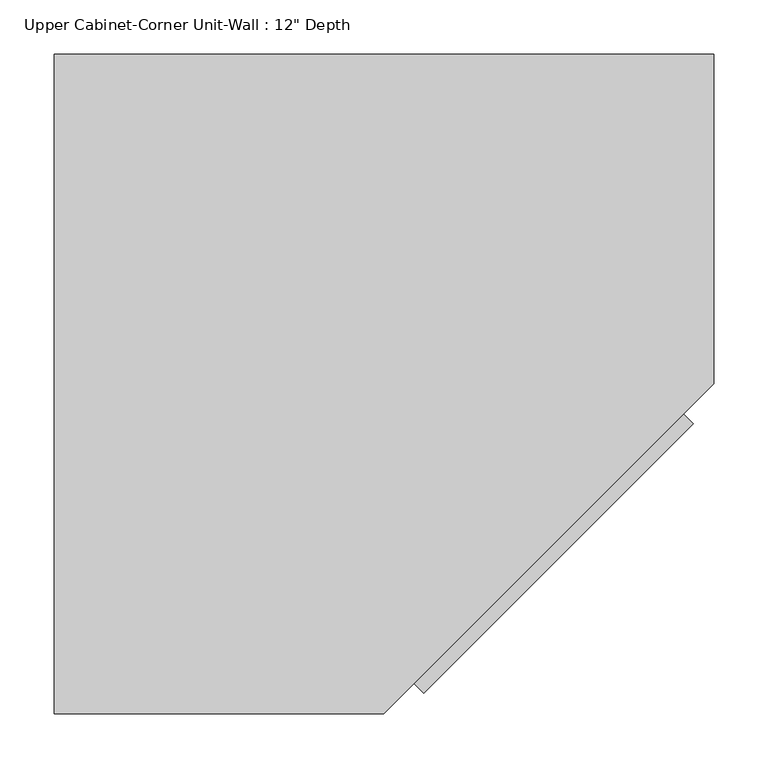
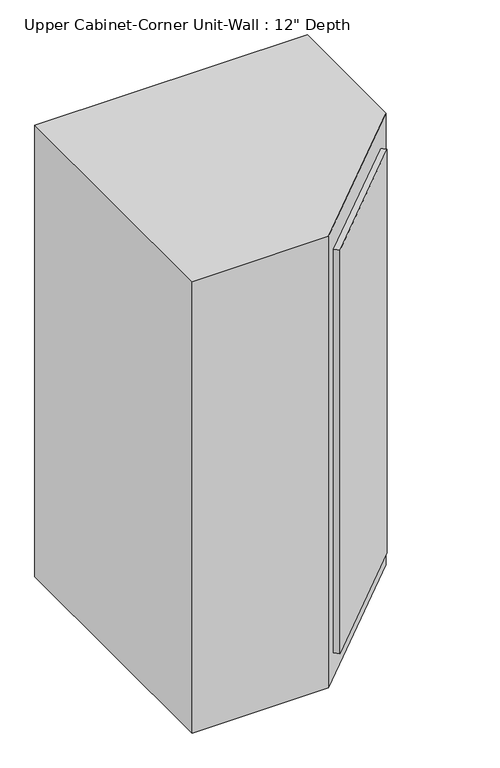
"""IFC4 building model written with IfcOpenShell, lengths in millimetres: furniture geometry."""

import ifcopenshell
import ifcopenshell.guid

model = None  # the IFC model being written
_history = None  # IfcOwnerHistory: only IFC2X3 demands one
_inside = {}  # id of a spatial element -> (the spatial element, [elements in it])
_under = {}  # id of a project, library or spatial element -> (it, [spatial elements below it])
_declared = {}  # id of a project -> (the project, [libraries it declares])
_typed = {}  # id of a type object -> (the type object, [elements of that type])
_made_of = {}  # id of a material, layer set ... -> (it, [elements and type objects made of it])


def new_model(schema):
    """Start an empty IFC model of exactly this schema.

    Asked for "IFC4X3", IfcOpenShell would pick the latest addendum, in which some entities
    have other attributes; the version numbers below select the first issue.
    IFC2X3 requires an IfcOwnerHistory on every rooted entity: one is made here for all.
    """
    global model, _history
    if schema == "IFC4X3":
        model = ifcopenshell.file(schema_version=(4, 3, 0, 0))
    else:
        model = ifcopenshell.file(schema=schema)
    _inside.clear()
    _under.clear()
    _declared.clear()
    _typed.clear()
    _made_of.clear()
    _history = None
    if model.schema == "IFC2X3":
        org = make("IfcOrganization", Name="unknown")
        user = make(
            "IfcPersonAndOrganization",
            ThePerson=make("IfcPerson", FamilyName="unknown"),
            TheOrganization=org,
        )
        app = make(
            "IfcApplication",
            ApplicationDeveloper=org,
            Version="unknown",
            ApplicationFullName="unknown",
            ApplicationIdentifier="unknown",
        )
        _history = make(
            "IfcOwnerHistory",
            OwningUser=user,
            OwningApplication=app,
            ChangeAction="ADDED",
            CreationDate=0,
        )
    return model


def make(cls, **values):
    """One entity of the class cls with the attributes given. An attribute that is None is left unset."""
    return model.create_entity(
        cls, **{name: value for name, value in values.items() if value is not None}
    )


def rooted(cls, **values):
    """An entity with a GlobalId (a new one), such as an element, a storey or a relation."""
    return make(cls, GlobalId=ifcopenshell.guid.new(), OwnerHistory=_history, **values)


def si_unit(unit_type, name, prefix=None):
    """IfcSIUnit, for example si_unit("LENGTHUNIT", "METRE", prefix="MILLI")."""
    return make("IfcSIUnit", UnitType=unit_type, Prefix=prefix, Name=name)


def assignment(units):
    """IfcUnitAssignment: the units of a project."""
    return None if units is None else make("IfcUnitAssignment", Units=units)


def point(xyz):
    """IfcCartesianPoint."""
    return None if xyz is None else make("IfcCartesianPoint", Coordinates=xyz)


def direction(xyz):
    """IfcDirection."""
    return None if xyz is None else make("IfcDirection", DirectionRatios=xyz)


def frame(location, z_axis=None, x_axis=None):
    """IfcAxis2Placement3D, a coordinate frame: its origin and axes. An axis left out is left unset."""
    return make(
        "IfcAxis2Placement3D",
        Location=point(location),
        Axis=direction(z_axis),
        RefDirection=direction(x_axis),
    )


def origin():
    """The frame at (0, 0, 0) with its axes left unset."""
    return frame((0.0, 0.0, 0.0))


def place(relative_to, where):
    """IfcLocalPlacement: puts the frame where relative to a parent placement (None: the world)."""
    return make(
        "IfcLocalPlacement", PlacementRelTo=relative_to, RelativePlacement=where
    )


def context(
    kind, dimensions, precision=None, world=None, true_north=None, identifier=None
):
    """IfcGeometricRepresentationContext, for example the 3D "Model" context."""
    return make(
        "IfcGeometricRepresentationContext",
        ContextIdentifier=identifier,
        ContextType=kind,
        CoordinateSpaceDimension=dimensions,
        Precision=precision,
        WorldCoordinateSystem=world,
        TrueNorth=true_north,
    )


def project(units=None, contexts=None):
    """IfcProject with its units and contexts."""
    return rooted(
        "IfcProject",
        Name="project",
        RepresentationContexts=contexts,
        UnitsInContext=assignment(units),
    )


def spatial(cls, under=None, at=None, **own):
    """A site, building, storey or space (cls), placed at a placement, below another one or the project."""
    s = rooted(cls, ObjectPlacement=at, **own)
    if under is not None:
        _under.setdefault(under.id(), (under, []))[1].append(s)
    return s


def polyline(points):
    """IfcPolyline through the points."""
    return make("IfcPolyline", Points=[point(p) for p in points])


def outline(outer, holes=None, kind="AREA"):
    """IfcArbitraryClosedProfileDef: a profile drawn as a closed curve; with holes, ...WithVoids."""
    if holes is None:
        return make("IfcArbitraryClosedProfileDef", ProfileType=kind, OuterCurve=outer)
    return make(
        "IfcArbitraryProfileDefWithVoids",
        ProfileType=kind,
        OuterCurve=outer,
        InnerCurves=holes,
    )


def extrude(swept, where, along, depth):
    """IfcExtrudedAreaSolid: the profile swept, set in the frame where, extruded along a direction by depth."""
    return make(
        "IfcExtrudedAreaSolid",
        SweptArea=swept,
        Position=where,
        ExtrudedDirection=direction(along),
        Depth=depth,
    )


def faces_of(points, faces, orient=None, outer=None):
    """IfcFace entities. A face is a list of loops; a loop is a list of indices into points, from 0.

    orient and outer hold one flag for each loop. By default every Orientation is true, the
    first loop of a face is its IfcFaceOuterBound and the others are IfcFaceBound.
    """
    made = []
    for i, loops in enumerate(faces):
        bounds = []
        for j, loop in enumerate(loops):
            is_outer = j == 0 if outer is None else outer[i][j]
            bounds.append(
                make(
                    "IfcFaceOuterBound" if is_outer else "IfcFaceBound",
                    Bound=make("IfcPolyLoop", Polygon=[points[k] for k in loop]),
                    Orientation=True if orient is None else orient[i][j],
                )
            )
        made.append(make("IfcFace", Bounds=bounds))
    return made


def faceted_brep(points, faces, orient=None, outer=None, voids=None):
    """IfcFacetedBrep: a solid bounded by flat faces; with voids (closed shells), ...WithVoids."""
    shared = [point(p) for p in points]
    hull = make("IfcClosedShell", CfsFaces=faces_of(shared, faces, orient, outer))
    if voids is None:
        return make("IfcFacetedBrep", Outer=hull)
    return make(
        "IfcFacetedBrepWithVoids",
        Outer=hull,
        Voids=[
            make(cls, CfsFaces=faces_of(shared, fs, o, b)) for cls, fs, o, b in voids
        ],
    )


def shape(context_of_items, identifier, shape_type, items):
    """IfcShapeRepresentation: the items that make up one representation, for example the "Body"."""
    return make(
        "IfcShapeRepresentation",
        ContextOfItems=context_of_items,
        RepresentationIdentifier=identifier,
        RepresentationType=shape_type,
        Items=items,
    )


def source(mapping_origin, context_of_items, identifier, shape_type, items):
    """IfcRepresentationMap: a shape defined once, which mapped items show again and again."""
    return make(
        "IfcRepresentationMap",
        MappingOrigin=mapping_origin,
        MappedRepresentation=shape(context_of_items, identifier, shape_type, items),
    )


def transform(
    local_origin,
    x_axis=None,
    y_axis=None,
    z_axis=None,
    scale=None,
    scale2=None,
    scale3=None,
    uniform=True,
):
    """IfcCartesianTransformationOperator3D, or its non-uniform kind. x_axis, y_axis, z_axis: its Axis1, 2, 3."""
    if uniform:
        return make(
            "IfcCartesianTransformationOperator3D",
            Axis1=direction(x_axis),
            Axis2=direction(y_axis),
            LocalOrigin=point(local_origin),
            Scale=scale,
            Axis3=direction(z_axis),
        )
    return make(
        "IfcCartesianTransformationOperator3DnonUniform",
        Axis1=direction(x_axis),
        Axis2=direction(y_axis),
        LocalOrigin=point(local_origin),
        Scale=scale,
        Axis3=direction(z_axis),
        Scale2=scale2,
        Scale3=scale3,
    )


def mapped(mapping_source, mapping_target):
    """IfcMappedItem: shows the shape of a source again, moved by a transform."""
    return make(
        "IfcMappedItem", MappingSource=mapping_source, MappingTarget=mapping_target
    )


def made_of(thing, what):
    """Note that an element or type object is made of a material, layer set ...; save() writes the relation."""
    if what is not None:
        _made_of.setdefault(what.id(), (what, []))[1].append(thing)
    return thing


def element(
    cls,
    number,
    at=None,
    inside=None,
    cuts=None,
    type_object=None,
    material=None,
    context=None,
    identifier="Body",
    shape_type=None,
    held_by="IfcProductDefinitionShape",
    body=None,
    shapes=None,
    **own,
):
    """One element of the class cls, such as IfcWall. Its Tag is "e" and its number.

    at: its placement. inside: the storey or other place that contains it. cuts: it is an
    opening in that element (IfcRelVoidsElement). A single representation is given by context,
    identifier, shape_type and body (its items); several are given by shapes. held_by: the class
    of the entity that holds the representations. save() writes the other relations.
    """
    e = rooted(cls, Tag="e%d" % number, ObjectPlacement=at, **own)
    if body is not None:
        shapes = [shape(context, identifier, shape_type, body)]
    if shapes is not None:
        e.Representation = make(held_by, Representations=shapes)
    if inside is not None:
        _inside.setdefault(inside.id(), (inside, []))[1].append(e)
    if cuts is not None:
        rooted(
            "IfcRelVoidsElement", RelatingBuildingElement=cuts, RelatedOpeningElement=e
        )
    if type_object is not None:
        _typed.setdefault(type_object.id(), (type_object, []))[1].append(e)
    return made_of(e, material)


def aggregate(whole, parts):
    """IfcRelAggregates: a whole, such as a stair, and the parts it consists of."""
    return rooted("IfcRelAggregates", RelatingObject=whole, RelatedObjects=parts)


def save(model, path):
    """Write the relations noted so far, then the file.

    IfcRelAggregates (storeys below a building ...), IfcRelContainedInSpatialStructure (elements
    in a storey), IfcRelDefinesByType, IfcRelAssociatesMaterial and IfcRelDeclares: one each for
    every whole, place, type object, material and project.
    """
    for whole, parts in _under.values():
        aggregate(whole, parts)
    for where, things in _inside.values():
        rooted(
            "IfcRelContainedInSpatialStructure",
            RelatedElements=things,
            RelatingStructure=where,
        )
    for kind, things in _typed.values():
        rooted("IfcRelDefinesByType", RelatedObjects=things, RelatingType=kind)
    for what, things in _made_of.values():
        rooted("IfcRelAssociatesMaterial", RelatedObjects=things, RelatingMaterial=what)
    for by, libraries in _declared.values():
        rooted("IfcRelDeclares", RelatingContext=by, RelatedDefinitions=libraries)
    model.write(path)


def furniture_f7997885(model_context):
    return source(origin(), model_context, "Body", "SolidModel", [
        extrude(outline(polyline([(295.0625715, -667.0691036), (277.1020592, -649.1085913), (526.4797541, -399.7308964), (544.4402664, -417.6914087), (295.0625715, -667.0691036)])), frame((0.0, 0.0, 1123.95), z_axis=(0.0, 0.0, 1.0), x_axis=(1.0, 0.0, 0.0)), (0.0, 0.0, 1.0), 952.5),
        extrude(outline(polyline([(-27.3788372, -666.75), (-27.3788372, -95.25), (544.1211628, -95.25), (544.1211628, -373.1092316), (250.4803944, -666.75), (-27.3788372, -666.75)])), frame((0.0, 0.0, 1066.8), z_axis=(0.0, 0.0, 1.0), x_axis=(1.0, 0.0, 0.0)), (0.0, 0.0, 1.0), 25.4),
        faceted_brep([(-46.4288372, -685.8, 1066.8), (-46.4288372, -76.2, 1066.8), (563.1711628, -76.2, 1066.8), (563.1711628, -381.0, 1066.8), (258.3711628, -685.8, 1066.8), (250.4803944, -666.75, 1066.8), (544.1211628, -373.1092316, 1066.8), (544.1211628, -95.25, 1066.8), (-27.3788372, -95.25, 1066.8), (-27.3788372, -666.75, 1066.8), (-46.4288372, -685.8, 2133.6), (258.3711628, -685.8, 2133.6), (563.1711628, -381.0, 2133.6), (563.1711628, -76.2, 2133.6), (-46.4288372, -76.2, 2133.6), (-27.3788372, -666.75, 2108.2), (250.4803944, -666.75, 2108.2), (-27.3788372, -95.25, 2108.2), (544.1211628, -95.25, 2108.2), (544.1211628, -373.1092316, 2108.2), (535.4600102, -408.7111525, 2076.45), (535.4600102, -408.7111525, 1123.95), (286.0823153, -658.0888475, 1123.95), (286.0823153, -658.0888475, 2076.45), (272.6119312, -644.6184633, 2076.45), (272.6119312, -644.6184633, 1123.95), (521.9896261, -395.2407684, 1123.95), (521.9896261, -395.2407684, 2076.45)], [[[0, 1, 2, 3, 4], [5, 6, 7, 8, 9]], [[10, 11, 12, 13, 14]], [[4, 11, 10, 0]], [[9, 15, 16, 5]], [[8, 17, 15, 9]], [[7, 18, 17, 8]], [[6, 19, 18, 7]], [[2, 13, 12, 3]], [[1, 14, 13, 2]], [[0, 10, 14, 1]], [[15, 17, 18, 19, 16]], [[3, 12, 11, 4], [20, 21, 22, 23]], [[5, 16, 19, 6], [24, 25, 26, 27]], [[20, 23, 24, 27]], [[22, 21, 26, 25]], [[23, 22, 25, 24]], [[27, 26, 21, 20]]]),
    ])


if __name__ == "__main__":
    model = new_model("IFC4")
    model_context = context("Model", 3, world=origin())
    ifc_project = project(units=[si_unit("LENGTHUNIT", "METRE", prefix="MILLI")], contexts=[model_context])
    site = spatial("IfcSite", under=ifc_project)
    building = spatial("IfcBuilding", under=site)
    placement = place(None, origin())
    furniture_shape = furniture_f7997885(model_context)
    element("IfcFurniture", 1, ObjectType="Upper Cabinet-Corner Unit-Wall : 12\" Depth", at=placement, inside=building, context=model_context, shape_type="MappedRepresentation", body=[
        mapped(furniture_shape, transform((0.0, 0.0, 0.0), x_axis=(1.0, 0.0, 0.0), y_axis=(0.0, 1.0, 0.0), z_axis=(0.0, 0.0, 1.0))),
    ])
    save(model, "model.ifc")
